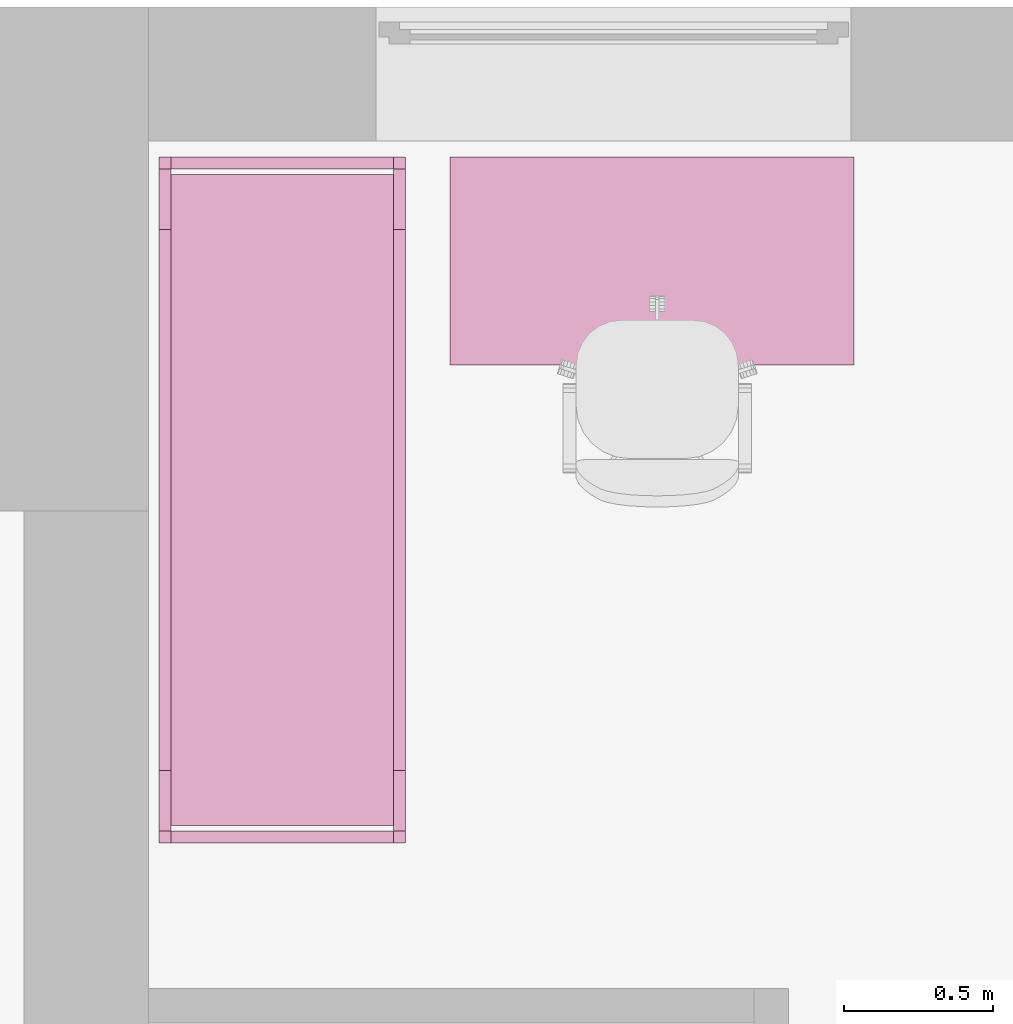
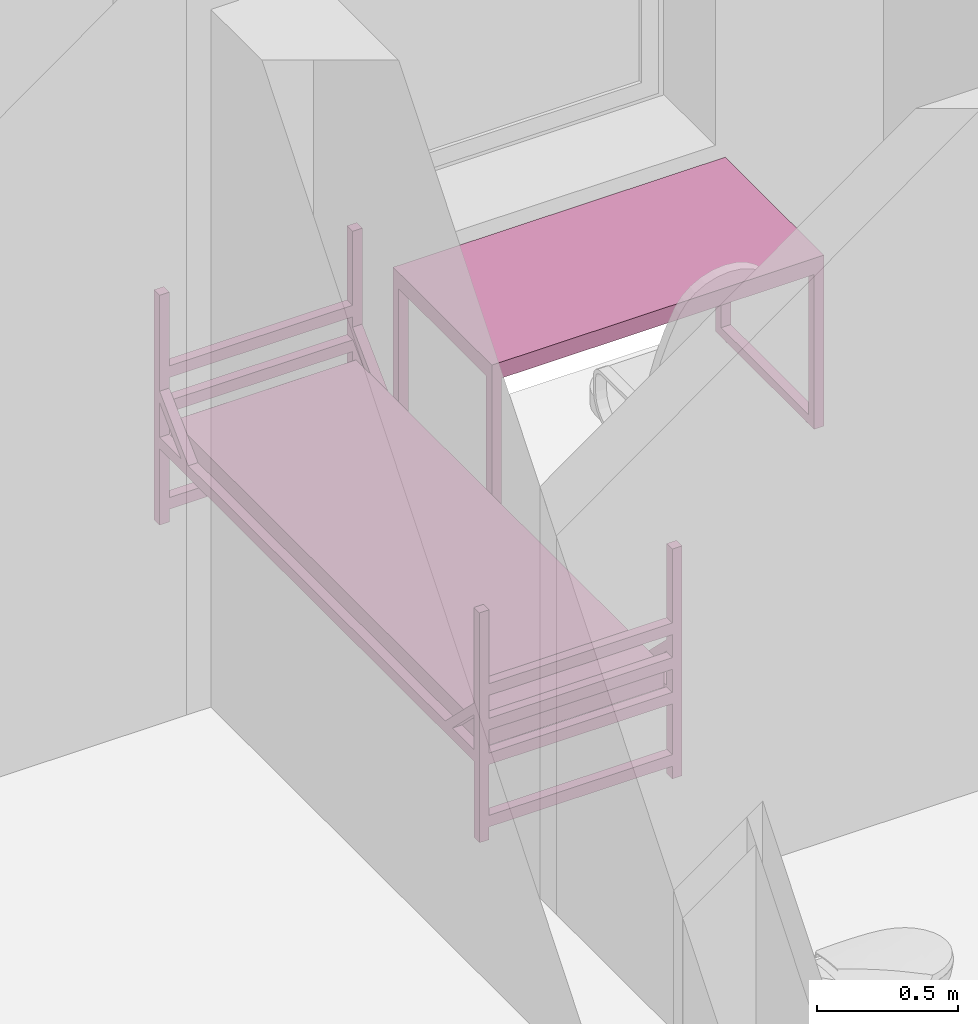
# One storey, part 29 of 48: 2 furnishings.
"""IFC2X3 building model written with IfcOpenShell, lengths in millimetres."""

from ifc_helpers import new_model, entity, si_unit, converted_unit, derived_unit, direction, frame, frame_2d, origin, place, context, subcontext, project, spatial, polyline, circle_curve, parameter, trimmed, segment, composite_curve, rectangle, outline, extrude, faceted_brep, source, transform, mapped, material, material_list, type_object, type_shapes, element, save


model = new_model("IFC2X3")

# Units and contexts
model_context = context("Model", 3, precision=0.01, world=origin(), true_north=direction((6.12303176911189e-17, 1.0)))
body_context = subcontext(model_context, "Body", "Model", "MODEL_VIEW")
ifc_project = project(units=[si_unit("LENGTHUNIT", "METRE", prefix="MILLI"), si_unit("AREAUNIT", "SQUARE_METRE"), si_unit("VOLUMEUNIT", "CUBIC_METRE"), converted_unit("PLANEANGLEUNIT", "DEGREE", entity("IfcRatioMeasure", 0.0174532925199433), si_unit("PLANEANGLEUNIT", "RADIAN"), dimensions=[0, 0, 0, 0, 0, 0, 0]), si_unit("MASSUNIT", "GRAM", prefix="KILO"), derived_unit("MASSDENSITYUNIT", [(si_unit("MASSUNIT", "GRAM", prefix="KILO"), 1), (si_unit("LENGTHUNIT", "METRE"), -3)]), si_unit("TIMEUNIT", "SECOND"), si_unit("FREQUENCYUNIT", "HERTZ"), si_unit("THERMODYNAMICTEMPERATUREUNIT", "DEGREE_CELSIUS"), derived_unit("THERMALTRANSMITTANCEUNIT", [(si_unit("MASSUNIT", "GRAM", prefix="KILO"), 1), (si_unit("THERMODYNAMICTEMPERATUREUNIT", "KELVIN"), -1), (si_unit("TIMEUNIT", "SECOND"), -3)]), derived_unit("VOLUMETRICFLOWRATEUNIT", [(si_unit("LENGTHUNIT", "METRE"), 3), (si_unit("TIMEUNIT", "SECOND"), -1)]), si_unit("ELECTRICCURRENTUNIT", "AMPERE"), si_unit("ELECTRICVOLTAGEUNIT", "VOLT"), si_unit("POWERUNIT", "WATT"), si_unit("FORCEUNIT", "NEWTON", prefix="KILO"), si_unit("ILLUMINANCEUNIT", "LUX"), si_unit("LUMINOUSFLUXUNIT", "LUMEN"), si_unit("LUMINOUSINTENSITYUNIT", "CANDELA"), derived_unit("USERDEFINED", [(si_unit("MASSUNIT", "GRAM", prefix="KILO"), -1), (si_unit("LENGTHUNIT", "METRE"), -2), (si_unit("TIMEUNIT", "SECOND"), 3), (si_unit("LUMINOUSFLUXUNIT", "LUMEN"), 1)]), derived_unit("LINEARVELOCITYUNIT", [(si_unit("LENGTHUNIT", "METRE"), 1), (si_unit("TIMEUNIT", "SECOND"), -1)]), si_unit("PRESSUREUNIT", "PASCAL"), derived_unit("USERDEFINED", [(si_unit("LENGTHUNIT", "METRE"), -2), (si_unit("MASSUNIT", "GRAM", prefix="KILO"), 1), (si_unit("TIMEUNIT", "SECOND"), -2)]), derived_unit("LINEARFORCEUNIT", [(si_unit("MASSUNIT", "GRAM", prefix="KILO"), 1), (si_unit("LENGTHUNIT", "METRE"), 1), (si_unit("TIMEUNIT", "SECOND"), -2), (si_unit("LENGTHUNIT", "METRE"), -1)]), derived_unit("PLANARFORCEUNIT", [(si_unit("MASSUNIT", "GRAM", prefix="KILO"), 1), (si_unit("LENGTHUNIT", "METRE"), 1), (si_unit("TIMEUNIT", "SECOND"), -2), (si_unit("LENGTHUNIT", "METRE"), -2)])], contexts=[model_context])

# Site, building, storey, space
site_placement = place(None, origin())
site = spatial("IfcSite", under=ifc_project, at=site_placement, Name="Default", CompositionType="ELEMENT")
building_placement = place(site_placement, origin())
building = spatial("IfcBuilding", under=site, at=building_placement, Name="SMA ARH", CompositionType="ELEMENT")
storey_placement = place(building_placement, frame((0.0, 0.0, 3300.0)))
storey = spatial("IfcBuildingStorey", under=building, at=storey_placement, Name="2 Korrus", CompositionType="ELEMENT", Elevation=3299.99999999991)
space_placement = place(storey_placement, origin())
space = spatial("IfcSpace", under=storey, at=space_placement, Name="2-20/1", CompositionType="ELEMENT", InteriorOrExteriorSpace="INTERNAL")

# Furnishings
ifc_material_1 = material(Name="Madrats")
furniture_type_1 = type_object("IfcFurnitureType", Name="Kasarmu voodi ühekordne 2308x830:Kasarmu voodi ühekordne 2308x830", material=ifc_material_1)
shared_shape_1 = source(origin(), body_context, "Body", "SweptSolid", [
    extrude(rectangle(XDim=39.9999999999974, YDim=750.000000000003, at=frame_2d((-1.35003119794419e-13, -2.8421709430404e-14), x_axis=(1.0, 0.0))), frame((1.68638457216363, -1226.7969571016, 55.0), z_axis=(0.0, 0.0, 1.0), x_axis=(0.0, -1.0, 0.0)), (0.0, 0.0, 1.0), 49.9999999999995),
    extrude(rectangle(XDim=39.9999999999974, YDim=750.000000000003, at=frame_2d((-1.35003119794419e-13, -2.8421709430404e-14), x_axis=(1.0, 0.0))), frame((1.68638457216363, -1226.7969571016, 325.0), z_axis=(0.0, 0.0, 1.0), x_axis=(0.0, -1.0, 0.0)), (0.0, 0.0, 1.0), 49.9999999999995),
    extrude(rectangle(XDim=39.9999999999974, YDim=750.000000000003, at=frame_2d((-1.35003119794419e-13, -2.8421709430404e-14), x_axis=(1.0, 0.0))), frame((1.68638457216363, -1226.7969571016, 475.0), z_axis=(0.0, 0.0, 1.0), x_axis=(0.0, -1.0, 0.0)), (0.0, 0.0, 1.0), 49.9999999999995),
    extrude(rectangle(XDim=39.9999999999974, YDim=750.000000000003, at=frame_2d((-1.35003119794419e-13, -2.8421709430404e-14), x_axis=(1.0, 0.0))), frame((1.68638457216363, -1226.7969571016, 625.0), z_axis=(0.0, 0.0, 1.0), x_axis=(0.0, -1.0, 0.0)), (0.0, 0.0, 1.0), 50.0000000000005),
    extrude(rectangle(XDim=39.9999999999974, YDim=750.000000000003, at=frame_2d((1.35003119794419e-13, -2.8421709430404e-14), x_axis=(1.0, 0.0))), frame((1.68638457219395, 1041.2030428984, 55.0), z_axis=(0.0, 0.0, 1.0), x_axis=(0.0, -1.0, 0.0)), (0.0, 0.0, 1.0), 50.0000000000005),
    extrude(rectangle(XDim=39.9999999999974, YDim=750.000000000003, at=frame_2d((1.35003119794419e-13, -2.8421709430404e-14), x_axis=(1.0, 0.0))), frame((1.68638457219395, 1041.2030428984, 325.0), z_axis=(0.0, 0.0, 1.0), x_axis=(0.0, -1.0, 0.0)), (0.0, 0.0, 1.0), 50.0000000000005),
    extrude(rectangle(XDim=39.9999999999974, YDim=750.000000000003, at=frame_2d((1.35003119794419e-13, -2.8421709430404e-14), x_axis=(1.0, 0.0))), frame((1.68638457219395, 1041.2030428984, 475.0), z_axis=(0.0, 0.0, 1.0), x_axis=(0.0, -1.0, 0.0)), (0.0, 0.0, 1.0), 50.0000000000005),
    extrude(rectangle(XDim=39.9999999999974, YDim=750.000000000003, at=frame_2d((1.35003119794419e-13, -2.8421709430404e-14), x_axis=(1.0, 0.0))), frame((1.68638457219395, 1041.2030428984, 625.0), z_axis=(0.0, 0.0, 1.0), x_axis=(0.0, -1.0, 0.0)), (0.0, 0.0, 1.0), 49.9999999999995),
    extrude(outline(composite_curve([segment(trimmed(circle_curve(frame_2d((1085.0, -40.0), x_axis=(1.0, 0.0)), 10.0), [parameter(270.0)], [parameter(0.0)], True, "PARAMETER"), True, "CONTINUOUS"), segment(polyline([(1095.0, -40.0), (1095.0, 40.0)]), True, "CONTINUOUS"), segment(trimmed(circle_curve(frame_2d((1085.0, 40.0), x_axis=(1.0, 0.0)), 10.0), [parameter(0.0)], [parameter(90.0000000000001)], True, "PARAMETER"), True, "CONTINUOUS"), segment(polyline([(1085.0, 50.0), (-1085.0, 50.0)]), True, "CONTINUOUS"), segment(trimmed(circle_curve(frame_2d((-1085.0, 40.0), x_axis=(1.0, 0.0)), 10.0), [parameter(90.0000000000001)], [parameter(180.0)], True, "PARAMETER"), True, "CONTINUOUS"), segment(polyline([(-1095.0, 40.0), (-1095.0, -40.0)]), True, "CONTINUOUS"), segment(trimmed(circle_curve(frame_2d((-1085.0, -40.0), x_axis=(1.0, 0.0)), 10.0), [parameter(180.0)], [parameter(270.0)], True, "PARAMETER"), True, "CONTINUOUS"), segment(polyline([(-1085.0, -50.0), (1085.0, -50.0)]), True, "CONTINUOUS")], self_intersect=False)), frame((-373.313615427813, -92.7969571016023, 405.0), z_axis=(1.0, 0.0, 0.0), x_axis=(0.0, -1.0, 0.0)), (0.0, 0.0, 1.0), 750.000000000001),
    extrude(outline(polyline([(-1114.0, -100.0), (1114.0, -100.0), (1114.0, -50.0), (961.59199141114, -50.0), (1114.0, 100.0), (1114.0, 150.0), (910.789321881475, -50.0), (-910.789321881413, -50.0), (-1114.0, 150.0), (-1114.0, 100.0), (-961.591991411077, -50.0), (-1114.0, -50.0), (-1114.0, -100.0)])), frame((-413.313615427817, -92.7969571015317, 430.0), z_axis=(1.0, 0.0, 0.0), x_axis=(0.0, 1.0, 0.0)), (0.0, 0.0, 1.0), 39.9999999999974),
    extrude(outline(polyline([(-1114.0, -100.0), (1114.0, -100.0), (1114.0, -50.0), (961.591991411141, -50.0), (1114.0, 100.0), (1114.0, 150.0), (910.789321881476, -50.0), (-910.789321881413, -50.0), (-1114.0, 150.0), (-1114.0, 100.0), (-961.591991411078, -50.0), (-1114.0, -50.0), (-1114.0, -100.0)])), frame((376.686384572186, -92.796957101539, 430.0), z_axis=(1.0, 0.0, 0.0), x_axis=(0.0, 1.0, 0.0)), (0.0, 0.0, 1.0), 39.9999999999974),
    extrude(rectangle(XDim=39.9999999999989, YDim=39.9999999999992, at=frame_2d((-6.75015598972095e-14, 0.0), x_axis=(1.0, 0.0))), frame((396.686384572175, -1226.79695710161, 0.0), z_axis=(0.0, 0.0, 1.0), x_axis=(0.0, 1.0, 0.0)), (0.0, 0.0, 1.0), 995.0),
    extrude(rectangle(XDim=39.9999999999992, YDim=39.9999999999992, at=frame_2d((-1.35003119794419e-13, 0.0), x_axis=(1.0, 0.0))), frame((396.686384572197, 1041.20304289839, 0.0), z_axis=(0.0, 0.0, 1.0), x_axis=(0.0, 1.0, 0.0)), (0.0, 0.0, 1.0), 995.0),
    extrude(rectangle(XDim=40.0000000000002, YDim=39.9999999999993, at=frame_2d((-1.35003119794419e-13, 0.0), x_axis=(1.0, 0.0))), frame((-393.313615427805, 1041.2030428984, 0.0), z_axis=(0.0, 0.0, 1.0), x_axis=(0.0, 1.0, 0.0)), (0.0, 0.0, 1.0), 995.0),
    extrude(rectangle(XDim=39.9999999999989, YDim=39.9999999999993, at=frame_2d((-6.75015598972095e-14, 0.0), x_axis=(1.0, 0.0))), frame((-393.313615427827, -1226.7969571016, 0.0), z_axis=(0.0, 0.0, 1.0), x_axis=(0.0, 1.0, 0.0)), (0.0, 0.0, 1.0), 995.0),
])
type_shapes(furniture_type_1, [shared_shape_1])
furnishing_1_placement = place(space_placement, frame((2613.31361542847, 11380.0, 0.0)))
element("IfcFurnishingElement", 1, at=furnishing_1_placement, inside=space, type_object=furniture_type_1, material=ifc_material_1, Name="Kasarmu voodi ühekordne 2308x830:Kasarmu voodi ühekordne 2308x830", ObjectType="Kasarmu voodi ühekordne 2308x830:Kasarmu voodi ühekordne 2308x830", context=body_context, shape_type="MappedRepresentation", body=[
    mapped(shared_shape_1, transform((0.0, 0.0, 0.0), scale=1.0)),
])
ifc_material_2 = material(Name="<Unnamed>")
ifc_material_list = material_list([ifc_material_2, ifc_material_2])
furniture_type_2 = type_object("IfcFurnitureType", Name="kirjutuslaud 1360x700mm:kirjutuslaud 1360x700mm", material=ifc_material_list)
shared_shape_2 = source(origin(), body_context, "Body", "Brep", [
    faceted_brep([(680.0, -350.0, 720.0), (680.0, 350.0, 720.0), (680.0, 350.0, 750.0), (680.0, -350.0, 750.0), (-680.0, -350.0, 720.0), (-680.0, -350.0, 750.0), (-680.0, 350.0, 750.0), (-680.0, 350.0, 720.0)], [[[0, 1, 2, 3]], [[4, 5, 6, 7]], [[1, 0, 4, 7]], [[2, 1, 7, 6]], [[3, 2, 6, 5]], [[0, 3, 5, 4]]]),
    faceted_brep([(-640.0, -310.0, 680.0), (-640.0, 310.0, 680.0), (-640.0, 310.0, 720.0), (-640.0, -310.0, 720.0), (-680.0, -350.0, 720.0), (-680.0, 350.0, 720.0), (-680.0, 350.0, 10.0), (-680.0, -350.0, 10.0), (-680.0, 310.0, 680.0), (-680.0, -310.0, 680.0), (-680.0, -310.0, 50.0), (-680.0, 310.0, 50.0), (-640.0, -350.0, 10.0), (-640.0, -350.0, 680.0), (640.0, -350.0, 680.0), (640.0, -350.0, 10.0), (680.0, -350.0, 10.0), (680.0, -350.0, 720.0), (-640.0, 350.0, 10.0), (680.0, 350.0, 720.0), (680.0, 350.0, 10.0), (640.0, 350.0, 10.0), (640.0, 350.0, 680.0), (-640.0, 350.0, 680.0), (640.0, 310.0, 720.0), (640.0, -310.0, 720.0), (-640.0, 310.0, 50.0), (-640.0, -310.0, 50.0), (640.0, -310.0, 680.0), (640.0, 310.0, 680.0), (680.0, 310.0, 680.0), (680.0, 310.0, 50.0), (680.0, -310.0, 50.0), (680.0, -310.0, 680.0), (640.0, -310.0, 50.0), (640.0, 310.0, 50.0)], [[[0, 1, 2, 3]], [[4, 5, 6, 7], [8, 9, 10, 11]], [[4, 7, 12, 13, 14, 15, 16, 17]], [[18, 12, 7, 6]], [[6, 5, 19, 20, 21, 22, 23, 18]], [[19, 5, 4, 17], [2, 24, 25, 3]], [[26, 1, 8, 11]], [[27, 26, 11, 10]], [[0, 27, 10, 9]], [[1, 0, 9, 8]], [[14, 13, 0, 28]], [[24, 2, 1, 29]], [[3, 25, 28, 0]], [[17, 16, 20, 19], [30, 31, 32, 33]], [[21, 15, 14, 28, 34, 35, 29, 22]], [[20, 16, 15, 21]], [[31, 30, 29, 35]], [[32, 31, 35, 34]], [[33, 32, 34, 28]], [[30, 33, 28, 29]], [[29, 28, 25, 24]], [[29, 1, 23, 22]], [[12, 18, 23, 1, 26, 27, 0, 13]]]),
    faceted_brep([(-663.729456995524, -270.466136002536, 0.0), (-659.847171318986, -269.955023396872, 0.0), (-655.964885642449, -270.466136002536, 0.0), (-652.347171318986, -271.964642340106, 0.0), (-649.240569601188, -274.348421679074, 0.0), (-646.85679026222, -277.455023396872, 0.0), (-645.35828392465, -281.072737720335, 0.0), (-644.847171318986, -284.955023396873, 0.0), (-645.35828392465, -288.83730907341, 0.0), (-646.85679026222, -292.455023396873, 0.0), (-649.240569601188, -295.561625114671, 0.0), (-652.347171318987, -297.945404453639, 0.0), (-655.964885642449, -299.443910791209, 0.0), (-659.847171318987, -299.955023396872, 0.0), (-663.729456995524, -299.443910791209, 0.0), (-667.347171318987, -297.945404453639, 0.0), (-670.453773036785, -295.561625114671, 0.0), (-672.837552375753, -292.455023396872, 0.0), (-674.336058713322, -288.83730907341, 0.0), (-674.847171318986, -284.955023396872, 0.0), (-674.336058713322, -281.072737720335, 0.0), (-672.837552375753, -277.455023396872, 0.0), (-670.453773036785, -274.348421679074, 0.0), (-667.347171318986, -271.964642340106, 0.0), (-655.964885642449, -299.443910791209, 10.0), (-652.347171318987, -297.945404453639, 10.0), (-649.240569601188, -295.561625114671, 10.0), (-646.85679026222, -292.455023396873, 10.0), (-645.35828392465, -288.83730907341, 10.0), (-644.847171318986, -284.955023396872, 10.0), (-645.35828392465, -281.072737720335, 10.0), (-646.85679026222, -277.455023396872, 10.0), (-649.240569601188, -274.348421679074, 10.0), (-652.347171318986, -271.964642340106, 10.0), (-655.964885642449, -270.466136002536, 10.0), (-659.847171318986, -269.955023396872, 10.0), (-663.729456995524, -270.466136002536, 10.0), (-667.347171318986, -271.964642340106, 10.0), (-670.453773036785, -274.348421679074, 10.0), (-672.837552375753, -277.455023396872, 10.0), (-674.336058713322, -281.072737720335, 10.0), (-674.847171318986, -284.955023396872, 10.0), (-674.336058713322, -288.83730907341, 10.0), (-672.837552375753, -292.455023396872, 10.0), (-670.453773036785, -295.561625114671, 10.0), (-667.347171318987, -297.945404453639, 10.0), (-663.729456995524, -299.443910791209, 10.0), (-659.847171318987, -299.955023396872, 10.0)], [[[0, 1, 2, 3, 4, 5, 6, 7, 8, 9, 10, 11, 12, 13, 14, 15, 16, 17, 18, 19, 20, 21, 22, 23]], [[24, 25, 26, 27, 28, 29, 30, 31, 32, 33, 34, 35, 36, 37, 38, 39, 40, 41, 42, 43, 44, 45, 46, 47]], [[18, 42, 41, 19]], [[17, 43, 42, 18]], [[45, 44, 16, 15]], [[17, 16, 44, 43]], [[46, 45, 15, 14]], [[47, 46, 14, 13]], [[12, 24, 47, 13]], [[11, 25, 24, 12]], [[27, 26, 10, 9]], [[11, 10, 26, 25]], [[28, 27, 9, 8]], [[29, 28, 8, 7]], [[6, 30, 29, 7]], [[5, 31, 30, 6]], [[33, 32, 4, 3]], [[5, 4, 32, 31]], [[34, 33, 3, 2]], [[35, 34, 2, 1]], [[0, 36, 35, 1]], [[23, 37, 36, 0]], [[39, 38, 22, 21]], [[23, 22, 38, 37]], [[40, 39, 21, 20]], [[41, 40, 20, 19]]]),
    faceted_brep([(-655.964885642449, 270.466136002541, 10.0), (-652.347171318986, 271.964642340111, 10.0), (-649.240569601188, 274.348421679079, 10.0), (-646.85679026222, 277.455023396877, 10.0), (-645.35828392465, 281.07273772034, 10.0), (-644.847171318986, 284.955023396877, 10.0), (-645.35828392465, 288.837309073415, 10.0), (-646.85679026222, 292.455023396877, 10.0), (-649.240569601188, 295.561625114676, 10.0), (-652.347171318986, 297.945404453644, 10.0), (-655.964885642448, 299.443910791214, 10.0), (-659.847171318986, 299.955023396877, 10.0), (-663.729456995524, 299.443910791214, 10.0), (-667.347171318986, 297.945404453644, 10.0), (-670.453773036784, 295.561625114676, 10.0), (-672.837552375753, 292.455023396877, 10.0), (-674.336058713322, 288.837309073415, 10.0), (-674.847171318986, 284.955023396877, 10.0), (-674.336058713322, 281.07273772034, 10.0), (-672.837552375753, 277.455023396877, 10.0), (-670.453773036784, 274.348421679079, 10.0), (-667.347171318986, 271.964642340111, 10.0), (-663.729456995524, 270.466136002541, 10.0), (-659.847171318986, 269.955023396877, 10.0), (-655.964885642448, 299.443910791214, 0.0), (-652.347171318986, 297.945404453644, 0.0), (-649.240569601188, 295.561625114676, 0.0), (-646.85679026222, 292.455023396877, 0.0), (-645.35828392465, 288.837309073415, 0.0), (-644.847171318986, 284.955023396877, 0.0), (-645.35828392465, 281.07273772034, 0.0), (-646.85679026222, 277.455023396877, 0.0), (-649.240569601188, 274.348421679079, 0.0), (-652.347171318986, 271.964642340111, 0.0), (-655.964885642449, 270.466136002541, 0.0), (-659.847171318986, 269.955023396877, 0.0), (-663.729456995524, 270.466136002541, 0.0), (-667.347171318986, 271.964642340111, 0.0), (-670.453773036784, 274.348421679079, 0.0), (-672.837552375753, 277.455023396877, 0.0), (-674.336058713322, 281.07273772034, 0.0), (-674.847171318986, 284.955023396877, 0.0), (-674.336058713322, 288.837309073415, 0.0), (-672.837552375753, 292.455023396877, 0.0), (-670.453773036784, 295.561625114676, 0.0), (-667.347171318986, 297.945404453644, 0.0), (-663.729456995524, 299.443910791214, 0.0), (-659.847171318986, 299.955023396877, 0.0)], [[[0, 1, 2, 3, 4, 5, 6, 7, 8, 9, 10, 11, 12, 13, 14, 15, 16, 17, 18, 19, 20, 21, 22, 23]], [[24, 25, 26, 27, 28, 29, 30, 31, 32, 33, 34, 35, 36, 37, 38, 39, 40, 41, 42, 43, 44, 45, 46, 47]], [[40, 18, 17, 41]], [[39, 19, 18, 40]], [[21, 20, 38, 37]], [[39, 38, 20, 19]], [[22, 21, 37, 36]], [[23, 22, 36, 35]], [[34, 0, 23, 35]], [[33, 1, 0, 34]], [[3, 2, 32, 31]], [[33, 32, 2, 1]], [[4, 3, 31, 30]], [[5, 4, 30, 29]], [[28, 6, 5, 29]], [[27, 7, 6, 28]], [[9, 8, 26, 25]], [[27, 26, 8, 7]], [[10, 9, 25, 24]], [[11, 10, 24, 47]], [[46, 12, 11, 47]], [[45, 13, 12, 46]], [[15, 14, 44, 43]], [[45, 44, 14, 13]], [[16, 15, 43, 42]], [[17, 16, 42, 41]]]),
    faceted_brep([(656.270543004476, -270.466136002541, 0.0), (660.152828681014, -269.955023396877, 0.0), (664.035114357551, -270.466136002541, 0.0), (667.652828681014, -271.96464234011, 0.0), (670.759430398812, -274.348421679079, 0.0), (673.14320973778, -277.455023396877, 0.0), (674.64171607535, -281.072737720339, 0.0), (675.152828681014, -284.955023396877, 0.0), (674.64171607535, -288.837309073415, 0.0), (673.14320973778, -292.455023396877, 0.0), (670.759430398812, -295.561625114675, 0.0), (667.652828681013, -297.945404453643, 0.0), (664.035114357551, -299.443910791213, 0.0), (660.152828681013, -299.955023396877, 0.0), (656.270543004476, -299.443910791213, 0.0), (652.652828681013, -297.945404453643, 0.0), (649.546226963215, -295.561625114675, 0.0), (647.162447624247, -292.455023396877, 0.0), (645.663941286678, -288.837309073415, 0.0), (645.152828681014, -284.955023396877, 0.0), (645.663941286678, -281.072737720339, 0.0), (647.162447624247, -277.455023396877, 0.0), (649.546226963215, -274.348421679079, 0.0), (652.652828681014, -271.96464234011, 0.0), (664.035114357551, -299.443910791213, 10.0), (667.652828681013, -297.945404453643, 10.0), (670.759430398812, -295.561625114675, 10.0), (673.14320973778, -292.455023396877, 10.0), (674.64171607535, -288.837309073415, 10.0), (675.152828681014, -284.955023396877, 10.0), (674.64171607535, -281.072737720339, 10.0), (673.14320973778, -277.455023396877, 10.0), (670.759430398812, -274.348421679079, 10.0), (667.652828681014, -271.96464234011, 10.0), (664.035114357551, -270.466136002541, 10.0), (660.152828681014, -269.955023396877, 10.0), (656.270543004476, -270.466136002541, 10.0), (652.652828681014, -271.96464234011, 10.0), (649.546226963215, -274.348421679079, 10.0), (647.162447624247, -277.455023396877, 10.0), (645.663941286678, -281.072737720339, 10.0), (645.152828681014, -284.955023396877, 10.0), (645.663941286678, -288.837309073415, 10.0), (647.162447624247, -292.455023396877, 10.0), (649.546226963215, -295.561625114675, 10.0), (652.652828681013, -297.945404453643, 10.0), (656.270543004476, -299.443910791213, 10.0), (660.152828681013, -299.955023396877, 10.0)], [[[0, 1, 2, 3, 4, 5, 6, 7, 8, 9, 10, 11, 12, 13, 14, 15, 16, 17, 18, 19, 20, 21, 22, 23]], [[24, 25, 26, 27, 28, 29, 30, 31, 32, 33, 34, 35, 36, 37, 38, 39, 40, 41, 42, 43, 44, 45, 46, 47]], [[18, 42, 41, 19]], [[17, 43, 42, 18]], [[45, 44, 16, 15]], [[17, 16, 44, 43]], [[46, 45, 15, 14]], [[47, 46, 14, 13]], [[12, 24, 47, 13]], [[11, 25, 24, 12]], [[27, 26, 10, 9]], [[11, 10, 26, 25]], [[28, 27, 9, 8]], [[29, 28, 8, 7]], [[6, 30, 29, 7]], [[5, 31, 30, 6]], [[33, 32, 4, 3]], [[5, 4, 32, 31]], [[34, 33, 3, 2]], [[35, 34, 2, 1]], [[0, 36, 35, 1]], [[23, 37, 36, 0]], [[39, 38, 22, 21]], [[23, 22, 38, 37]], [[40, 39, 21, 20]], [[41, 40, 20, 19]]]),
    faceted_brep([(664.035114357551, 270.466136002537, 10.0), (667.652828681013, 271.964642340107, 10.0), (670.759430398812, 274.348421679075, 10.0), (673.14320973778, 277.455023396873, 10.0), (674.64171607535, 281.072737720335, 10.0), (675.152828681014, 284.955023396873, 10.0), (674.64171607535, 288.837309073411, 10.0), (673.14320973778, 292.455023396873, 10.0), (670.759430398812, 295.561625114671, 10.0), (667.652828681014, 297.94540445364, 10.0), (664.035114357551, 299.443910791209, 10.0), (660.152828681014, 299.955023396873, 10.0), (656.270543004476, 299.443910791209, 10.0), (652.652828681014, 297.94540445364, 10.0), (649.546226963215, 295.561625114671, 10.0), (647.162447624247, 292.455023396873, 10.0), (645.663941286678, 288.837309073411, 10.0), (645.152828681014, 284.955023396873, 10.0), (645.663941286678, 281.072737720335, 10.0), (647.162447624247, 277.455023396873, 10.0), (649.546226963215, 274.348421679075, 10.0), (652.652828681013, 271.964642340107, 10.0), (656.270543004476, 270.466136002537, 10.0), (660.152828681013, 269.955023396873, 10.0), (664.035114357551, 299.443910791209, 0.0), (667.652828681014, 297.94540445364, 0.0), (670.759430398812, 295.561625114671, 0.0), (673.14320973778, 292.455023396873, 0.0), (674.64171607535, 288.837309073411, 0.0), (675.152828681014, 284.955023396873, 0.0), (674.64171607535, 281.072737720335, 0.0), (673.14320973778, 277.455023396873, 0.0), (670.759430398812, 274.348421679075, 0.0), (667.652828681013, 271.964642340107, 0.0), (664.035114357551, 270.466136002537, 0.0), (660.152828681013, 269.955023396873, 0.0), (656.270543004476, 270.466136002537, 0.0), (652.652828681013, 271.964642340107, 0.0), (649.546226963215, 274.348421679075, 0.0), (647.162447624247, 277.455023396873, 0.0), (645.663941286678, 281.072737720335, 0.0), (645.152828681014, 284.955023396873, 0.0), (645.663941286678, 288.837309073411, 0.0), (647.162447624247, 292.455023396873, 0.0), (649.546226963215, 295.561625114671, 0.0), (652.652828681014, 297.94540445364, 0.0), (656.270543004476, 299.443910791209, 0.0), (660.152828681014, 299.955023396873, 0.0)], [[[0, 1, 2, 3, 4, 5, 6, 7, 8, 9, 10, 11, 12, 13, 14, 15, 16, 17, 18, 19, 20, 21, 22, 23]], [[24, 25, 26, 27, 28, 29, 30, 31, 32, 33, 34, 35, 36, 37, 38, 39, 40, 41, 42, 43, 44, 45, 46, 47]], [[40, 18, 17, 41]], [[39, 19, 18, 40]], [[21, 20, 38, 37]], [[39, 38, 20, 19]], [[22, 21, 37, 36]], [[23, 22, 36, 35]], [[34, 0, 23, 35]], [[33, 1, 0, 34]], [[3, 2, 32, 31]], [[33, 32, 2, 1]], [[4, 3, 31, 30]], [[5, 4, 30, 29]], [[28, 6, 5, 29]], [[27, 7, 6, 28]], [[9, 8, 26, 25]], [[27, 26, 8, 7]], [[10, 9, 25, 24]], [[11, 10, 24, 47]], [[46, 12, 11, 47]], [[45, 13, 12, 46]], [[15, 14, 44, 43]], [[45, 44, 14, 13]], [[16, 15, 43, 42]], [[17, 16, 42, 41]]]),
])
type_shapes(furniture_type_2, [shared_shape_2])
furnishing_2_placement = place(space_placement, frame((3859.0, 12091.2030428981, 0.0)))
element("IfcFurnishingElement", 2, at=furnishing_2_placement, inside=space, type_object=furniture_type_2, Name="kirjutuslaud 1360x700mm:kirjutuslaud 1360x700mm", ObjectType="kirjutuslaud 1360x700mm:kirjutuslaud 1360x700mm", context=body_context, shape_type="MappedRepresentation", body=[
    mapped(shared_shape_2, transform((0.0, 0.0, 0.0), scale=1.0)),
])

save(model, "model.ifc")
